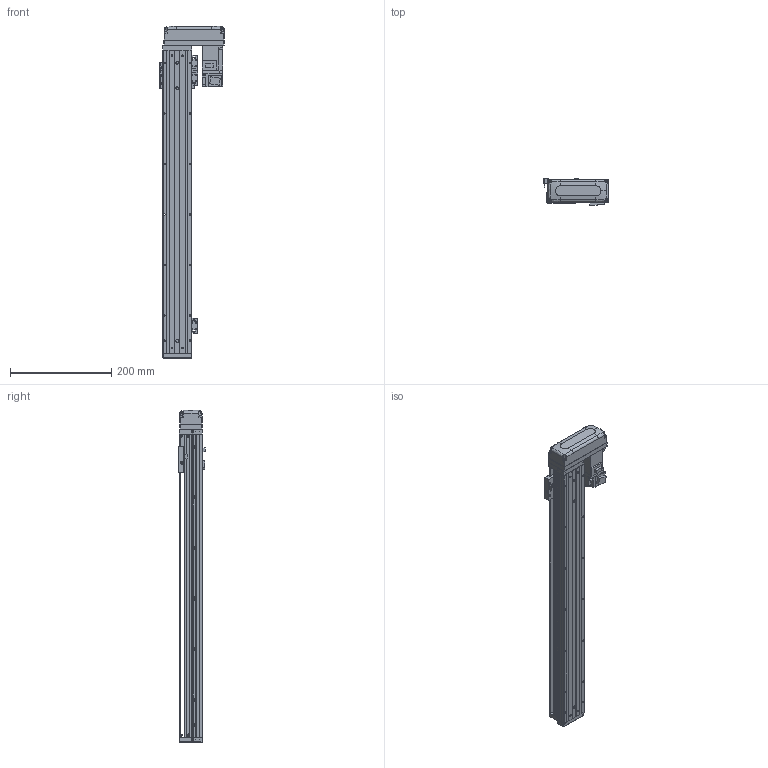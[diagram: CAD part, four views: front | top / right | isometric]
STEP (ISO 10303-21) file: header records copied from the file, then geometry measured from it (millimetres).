
FILE_DESCRIPTION (( 'STEP AP203' ), '1' );
FILE_NAME ('KTHA50-500-BL-M10-C4L.step', '2022-03-19T07:06:56', ( '微软用户' ), ( '微软中国' ), 'SwSTEP 2.0', 'SolidWorks 2020', '' );
FILE_SCHEMA (( 'CONFIG_CONTROL_DESIGN' ));
Length unit declared in the file: millimetre
Products named in the file (18): CTHA50-015-2_CTHA60-015-2; KTHA50-002; CTHA60-017; CTHA60-033; KTHA50-004; GBT 70.1-M4×12; GBT 70.1-M3×15; KTHA50-005; CTHA60-016; KTHA50-500-BL-M10-C4L; GB¨uT 70.2-M3¡Á6_M3¡Á6; CTHA60-021; EE_SX911P_R; GBT 70.3-M3℅6; GBT77-2000 M3×3; HG-KR13（三菱）; KTHA50-001_600; GBT 70.1-M3℅6
Assembly tree (53 placements, depth 2):
  KTHA50-500-BL-M10-C4L
    KTHA50-001_600
    KTHA50-002
    KTHA50-004
    KTHA50-005
    GB¨uT 70.2-M3¡Á6_M3¡Á6  x6
    EE_SX911P_R  x3
    GBT77-2000 M3×3  x6
    GBT 70.1-M3℅6  x6
    CTHA60-017  x3
    GBT 70.1-M4×12  x10
    CTHA60-016  x2
    CTHA60-021  x2
    GBT 70.3-M3℅6  x4
    HG-KR13（三菱）
    CTHA50-015-2_CTHA60-015-2
    CTHA60-033
    GBT 70.1-M3×15  x4
Bounding box: 128.4 x 53.3 x 657 mm (x, y, z)
Volume: 1343350.8 mm3; surface area: 329405.7 mm2
Topology: 56 solids, 56 shells, 2283 faces, 5407 edges, 3316 vertices
Faces by surface type: plane 1276, cylinder 556, cone 309, torus 100, bspline 26, sphere 16
Entity records: 38881 total; most frequent: CARTESIAN_POINT 7346, DIRECTION 6075, ORIENTED_EDGE 5826, EDGE_CURVE 2913, AXIS2_PLACEMENT_3D 2061, VECTOR 1953, LINE 1953, VERTEX_POINT 1830
